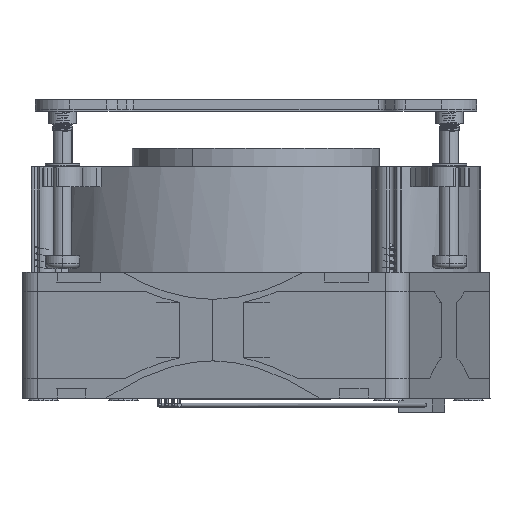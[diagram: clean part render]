
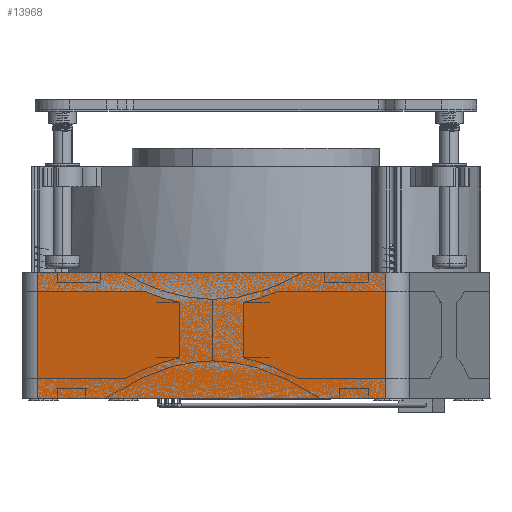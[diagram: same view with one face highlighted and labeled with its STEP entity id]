
A CAD part, front view. The second image highlights one B-rep face of the part: STEP entity #13968.
In plain terms, the highlighted planar face has unit normal (-0.225, -0.974, 0) as drawn and (1, 0, 0) by its records, which use the part's own axes.
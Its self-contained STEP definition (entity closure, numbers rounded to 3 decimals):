
#13738=DIRECTION('',(0.,-1.,0.));
#13739=VECTOR('',#13738,72.);
#13740=CARTESIAN_POINT('',(40.,36.,25.4));
#13741=LINE('',#13740,#13739);
#13784=DIRECTION('',(0.,0.,-1.));
#13785=VECTOR('',#13784,25.4);
#13786=CARTESIAN_POINT('',(40.,-36.,25.4));
#13787=LINE('',#13786,#13785);
#13792=DIRECTION('',(0.,-1.,0.));
#13793=VECTOR('',#13792,72.);
#13794=CARTESIAN_POINT('',(40.,36.,0.));
#13795=LINE('',#13794,#13793);
#13800=DIRECTION('',(0.,0.,1.));
#13801=VECTOR('',#13800,25.4);
#13802=CARTESIAN_POINT('',(40.,36.,0.));
#13803=LINE('',#13802,#13801);
#13834=CARTESIAN_POINT('',(40.,36.,25.4));
#13835=VERTEX_POINT('',#13834);
#13836=CARTESIAN_POINT('',(40.,-36.,25.4));
#13837=VERTEX_POINT('',#13836);
#13854=CARTESIAN_POINT('',(40.,-36.,0.));
#13855=VERTEX_POINT('',#13854);
#13856=CARTESIAN_POINT('',(40.,36.,0.));
#13857=VERTEX_POINT('',#13856);
#13955=CARTESIAN_POINT('',(40.,-36.,25.4));
#13956=DIRECTION('',(1.,0.,0.));
#13957=DIRECTION('',(0.,1.,0.));
#13958=AXIS2_PLACEMENT_3D('',#13955,#13956,#13957);
#13959=PLANE('',#13958);
#13960=ORIENTED_EDGE('',*,*,#13871,.F.);
#13962=ORIENTED_EDGE('',*,*,#13961,.F.);
#13964=ORIENTED_EDGE('',*,*,#13963,.T.);
#13965=ORIENTED_EDGE('',*,*,#13947,.F.);
#13966=EDGE_LOOP('',(#13960,#13962,#13964,#13965));
#13967=FACE_OUTER_BOUND('',#13966,.F.);
#13968=ADVANCED_FACE('',(#13967),#13959,.T.);
#13871=EDGE_CURVE('',#13835,#13837,#13741,.T.);
#13947=EDGE_CURVE('',#13837,#13855,#13787,.T.);
#13961=EDGE_CURVE('',#13857,#13835,#13803,.T.);
#13963=EDGE_CURVE('',#13857,#13855,#13795,.T.);
